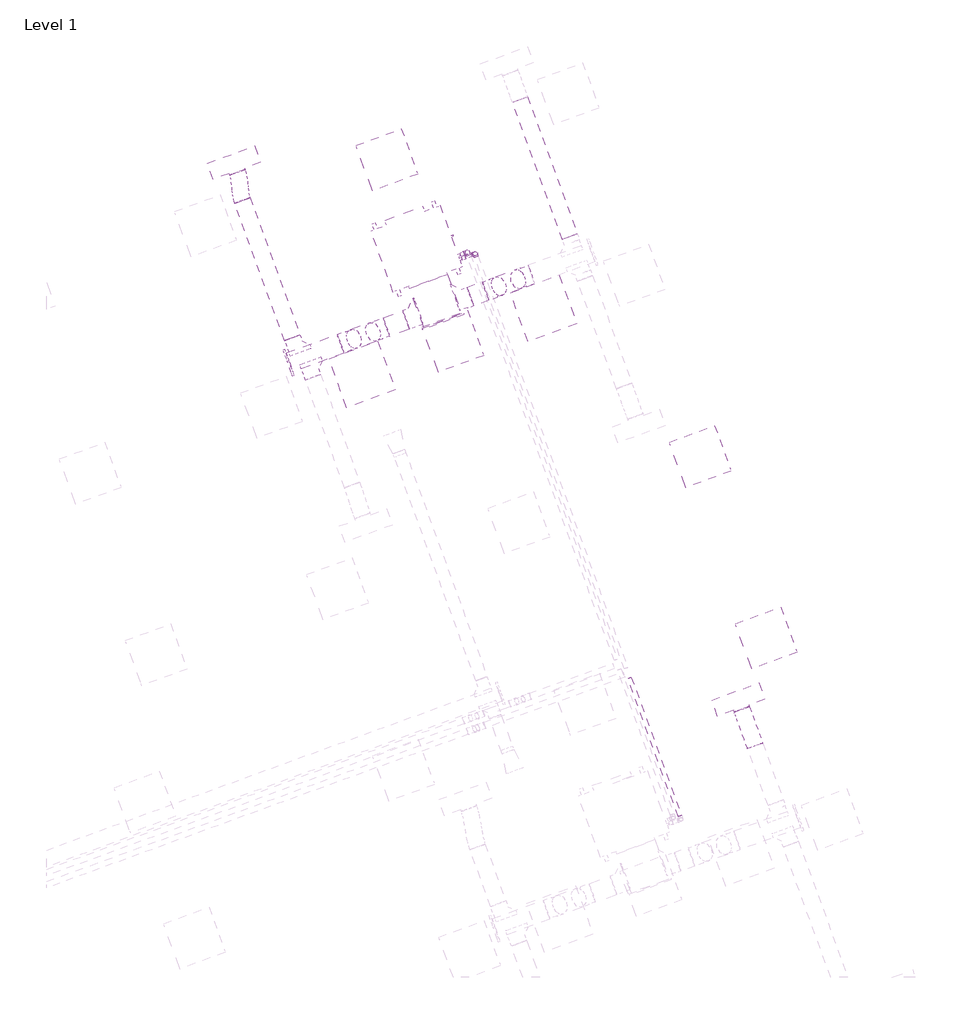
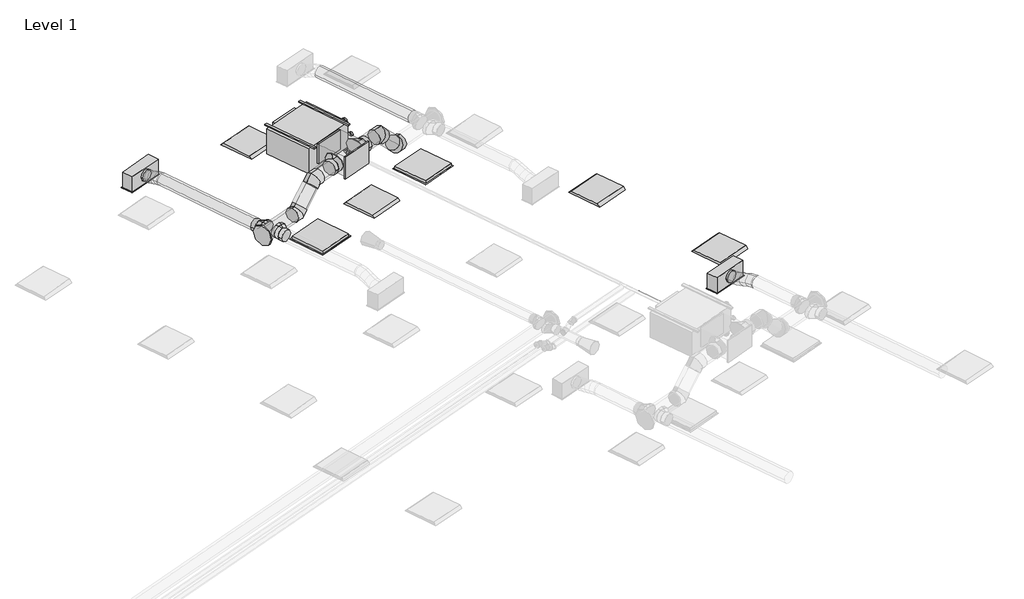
# One storey, part 29 of 30: 10 duct fittings, 10 duct segments, 6 pipe fittings, 4 air terminals, 4 light fixtures, 2 pipe segments, 1 proxy.
"""IFC4 building model written with IfcOpenShell, lengths in millimetres."""

from ifc_helpers import new_model, si_unit, point, frame, frame_2d, origin, place, context, project, spatial, polyline, circle_curve, ellipse_curve, trimmed, segment, composite_curve, outline, extrude, transform, mapped, element, save
from ifc_brep_helpers import plane_surface, cylinder_surface, advanced_brep
from components import return_grille_rectangular_hosted_standard_7b12617c, supply_diffuser_with_plenum_linear_slot_hosted_2b730595, fan_coil_unit_ceiling_ducted_chw_376_lps_945e770d, dw144_rectangular_blank_end_standard_1669e3e3, dw144_round_blank_end_standard_e3d0b58b, dw144_round_segmented_bend_slip_joint_standard_636bd9c1, dw144_round_shoe_branch_slip_joint1_standard_2_559552f4, dw144_round_shoe_branch_slip_joint1_standard_2_4a92c8a1, dw144_round_shoe_branch_slip_joint1_standard_2_671412f0, light_fixture_1c7c1157, elbow_threaded_gmi_standard_b4aa7741, socket_reducing_threaded_gmi_standard_0a4076b8

model = new_model("IFC4")

# Units and contexts
model_context = context("Model", 3, world=origin())
ifc_project = project(units=[si_unit("LENGTHUNIT", "METRE", prefix="MILLI")], contexts=[model_context])

# Site, building, storey
site = spatial("IfcSite", under=ifc_project)
building = spatial("IfcBuilding", under=site)
storey = spatial("IfcBuildingStorey", under=building, Name="Level 1", Elevation=3900.0)

# Air terminals
placement = place(None, origin())
return_grille_rectangular_hosted_standard_shape = return_grille_rectangular_hosted_standard_7b12617c(model_context)
element("IfcAirTerminal", 1, ObjectType="Return Grille - Rectangular - Hosted : Standard", at=placement, inside=storey, context=model_context, shape_type="MappedRepresentation", body=[
    mapped(return_grille_rectangular_hosted_standard_shape, transform((57626.8548517, 20697.8106845, 6700.0), x_axis=(0.939692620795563, 0.34202014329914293, 0.0), y_axis=(0.34202014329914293, -0.939692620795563, 0.0), z_axis=(0.0, 0.0, -1.0))),
])
element("IfcAirTerminal", 2, ObjectType="Return Grille - Rectangular - Hosted : Standard", at=placement, inside=storey, context=model_context, shape_type="MappedRepresentation", body=[
    mapped(return_grille_rectangular_hosted_standard_shape, transform((59882.1171416, 21518.6590285, 6700.0), x_axis=(0.939692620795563, 0.34202014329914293, 0.0), y_axis=(0.34202014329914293, -0.939692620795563, 0.0), z_axis=(0.0, 0.0, -1.0))),
])
supply_diffuser_with_plenum_linear_slot_hosted_shape = supply_diffuser_with_plenum_linear_slot_hosted_2b730595(model_context)
element("IfcAirTerminal", 3, ObjectType="Supply Diffuser with Plenum - Linear Slot - Hosted : 24\" x 8\"-200 In Inlet  4-Slot", at=placement, inside=storey, context=model_context, shape_type="MappedRepresentation", body=[
    mapped(supply_diffuser_with_plenum_linear_slot_hosted_shape, transform((56030.8737895, 23328.4499742, 6700.0), x_axis=(-0.9396926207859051, -0.3420201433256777, 0.0), y_axis=(-0.3420201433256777, 0.9396926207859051, 0.0), z_axis=(0.0, 0.0, -1.0))),
])
element("IfcAirTerminal", 4, ObjectType="Supply Diffuser with Plenum - Linear Slot - Hosted : 24\" x 8\"-200 In Inlet  4-Slot", at=placement, inside=storey, context=model_context, shape_type="MappedRepresentation", body=[
    mapped(supply_diffuser_with_plenum_linear_slot_hosted_shape, transform((62303.835891, 16653.5325978, 6700.0), x_axis=(-0.9396926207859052, -0.3420201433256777, 0.0), y_axis=(-0.3420201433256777, 0.9396926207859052, 0.0), z_axis=(0.0, 0.0, -1.0))),
])

# Proxy
fan_coil_unit_ceiling_ducted_chw_376_lps_shape = fan_coil_unit_ceiling_ducted_chw_376_lps_945e770d(model_context)
element("IfcBuildingElementProxy", 5, Name="Fan Coil Unit - Ceiling Ducted - CHW : 376 LPS", ObjectType="Fan Coil Unit - Ceiling Ducted - CHW : 376 LPS", at=placement, inside=storey, context=model_context, shape_type="MappedRepresentation", body=[
    mapped(fan_coil_unit_ceiling_ducted_chw_376_lps_shape, transform((58013.066855, 21719.3871216, 7115.575), x_axis=(0.9396926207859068, 0.34202014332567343, 0.0), y_axis=(-0.34202014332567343, 0.9396926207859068, 0.0), z_axis=(0.0, 0.0, 1.0))),
])

# Duct fittings
dw144_rectangular_blank_end_standard_shape = dw144_rectangular_blank_end_standard_1669e3e3(model_context)
element("IfcDuctFitting", 6, ObjectType="DW144 Rectangular Blank End : Standard", at=placement, inside=storey, context=model_context, shape_type="MappedRepresentation", body=[
    mapped(dw144_rectangular_blank_end_standard_shape, transform((58629.0952993, 21363.6262528, 7369.575), x_axis=(0.34202014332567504, -0.9396926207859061, 0.0), y_axis=(0.9396926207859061, 0.34202014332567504, 0.0), z_axis=(0.0, 0.0, 1.0))),
])
dw144_round_blank_end_standard_shape = dw144_round_blank_end_standard_e3d0b58b(model_context)
element("IfcDuctFitting", 7, ObjectType="DW144 Round Blank End : Standard", at=placement, inside=storey, context=model_context, shape_type="MappedRepresentation", body=[
    mapped(dw144_round_blank_end_standard_shape, transform((56721.5404125, 20844.6765966, 6972.2088531), x_axis=(-0.9396926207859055, -0.3420201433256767, 0.0), y_axis=(0.3420201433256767, -0.9396926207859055, 0.0), z_axis=(0.0, 0.0, 1.0))),
])
dw144_round_segmented_bend_slip_joint_standard_shape = dw144_round_segmented_bend_slip_joint_standard_636bd9c1(model_context)
element("IfcDuctFitting", 8, ObjectType="DW144 Round Segmented Bend - Slip Joint : Standard", at=placement, inside=storey, context=model_context, shape_type="MappedRepresentation", body=[
    mapped(dw144_round_segmented_bend_slip_joint_standard_shape, transform((59632.1186201, 21904.0404287, 6972.2088531), x_axis=(0.6644630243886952, 0.24184476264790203, -0.7071067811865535), y_axis=(0.6644630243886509, 0.2418447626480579, 0.7071067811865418), z_axis=(0.3420201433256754, -0.939692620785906, 0.0))),
])
element("IfcDuctFitting", 9, ObjectType="DW144 Round Segmented Bend - Slip Joint : Standard", at=placement, inside=storey, context=model_context, shape_type="MappedRepresentation", body=[
    mapped(dw144_round_segmented_bend_slip_joint_standard_shape, transform((59258.7165841, 21768.1332022, 7369.575), x_axis=(0.9396926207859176, 0.3420201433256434, 0.0), y_axis=(0.0, 0.0, -1.0), z_axis=(-0.3420201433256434, 0.9396926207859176, 0.0))),
])
element("IfcDuctFitting", 10, ObjectType="DW144 Round Segmented Bend - Slip Joint : Standard", at=placement, inside=storey, context=model_context, shape_type="MappedRepresentation", body=[
    mapped(dw144_round_segmented_bend_slip_joint_standard_shape, transform((57456.9817646, 21112.3553578, 6972.2088531), x_axis=(-0.6644630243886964, -0.24184476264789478, -0.7071067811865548), y_axis=(-0.6644630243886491, -0.24184476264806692, 0.7071067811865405), z_axis=(-0.34202014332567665, 0.9396926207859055, 0.0))),
])
element("IfcDuctFitting", 11, ObjectType="DW144 Round Segmented Bend - Slip Joint : Standard", at=placement, inside=storey, context=model_context, shape_type="MappedRepresentation", body=[
    mapped(dw144_round_segmented_bend_slip_joint_standard_shape, transform((57830.3838005, 21248.2625843, 7369.575), x_axis=(-0.9396926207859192, -0.3420201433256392, 0.0), y_axis=(0.0, 0.0, -1.0000000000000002), z_axis=(0.3420201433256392, -0.9396926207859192, 0.0))),
])
dw144_round_shoe_branch_slip_joint1_standard_2_shape = dw144_round_shoe_branch_slip_joint1_standard_2_559552f4(model_context)
element("IfcDuctFitting", 12, ObjectType="DW144 Round Shoe Branch - Slip Joint1 : Standard 2", at=placement, inside=storey, context=model_context, shape_type="MappedRepresentation", body=[
    mapped(dw144_round_shoe_branch_slip_joint1_standard_2_shape, transform((56809.6255441, 21009.7591842, 6972.2088531), x_axis=(-0.3420201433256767, 0.9396926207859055, 0.0), y_axis=(0.9396926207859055, 0.3420201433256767, 0.0), z_axis=(0.0, 0.0, -1.0))),
])
element("IfcDuctFitting", 13, ObjectType="DW144 Round Shoe Branch - Slip Joint1 : Standard 2", at=placement, inside=storey, context=model_context, shape_type="MappedRepresentation", body=[
    mapped(dw144_round_shoe_branch_slip_joint1_standard_2_shape, transform((56963.6827341, 20799.7869726, 6972.2088531), x_axis=(0.3420201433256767, -0.9396926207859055, 0.0), y_axis=(0.9396926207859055, 0.3420201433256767, 0.0), z_axis=(0.0, 0.0, 1.0))),
])
dw144_round_shoe_branch_slip_joint1_standard_2_2_shape = dw144_round_shoe_branch_slip_joint1_standard_2_4a92c8a1(model_context)
element("IfcDuctFitting", 14, ObjectType="DW144 Round Shoe Branch - Slip Joint1 : Standard 2", at=placement, inside=storey, context=model_context, shape_type="MappedRepresentation", body=[
    mapped(dw144_round_shoe_branch_slip_joint1_standard_2_2_shape, transform((58807.6641261, 21603.9635334, 7369.575), x_axis=(0.9396926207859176, 0.3420201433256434, 0.0), y_axis=(0.3420201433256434, -0.9396926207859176, 0.0), z_axis=(0.0, 0.0, -1.0))),
])
dw144_round_shoe_branch_slip_joint1_standard_2_3_shape = dw144_round_shoe_branch_slip_joint1_standard_2_671412f0(model_context)
element("IfcDuctFitting", 15, ObjectType="DW144 Round Shoe Branch - Slip Joint1 : Standard 2", at=placement, inside=storey, context=model_context, shape_type="MappedRepresentation", body=[
    mapped(dw144_round_shoe_branch_slip_joint1_standard_2_3_shape, transform((58337.8178157, 21432.9534617, 7369.575), x_axis=(-0.9396926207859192, -0.3420201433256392, 0.0), y_axis=(-0.3420201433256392, 0.9396926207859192, 0.0), z_axis=(0.0, 0.0, -1.0))),
])

# Duct segments
element("IfcDuctSegment", 16, ObjectType="DW144 Flanged Med Radius Bend / Shoe Branch", at=placement, inside=storey, context=model_context, shape_type="SweptSolid", body=[
    extrude(outline(polyline([(58216.4584777, 21766.3855027), (58686.3047881, 21937.3955743), (58864.0184545, 21449.1312886), (58394.1721442, 21278.1212169), (58216.4584777, 21766.3855027)])), frame((0.0, 0.0, 7194.575), z_axis=(0.0, 0.0, 1.0), x_axis=(1.0, 0.0, 0.0)), (0.0, 0.0, 1.0), 350.0),
])
element("IfcDuctSegment", 17, ObjectType="DW144 Segmented Bend / Shoe Branch", at=placement, inside=storey, context=model_context, shape_type="SweptSolid", body=[
    extrude(outline(composite_curve([segment(trimmed(circle_curve(frame_2d((0.0, 125.0)), 125.0), [point((125.0, 125.0))], [point((0.0, 0.0))], False, "CARTESIAN"), True, "CONTINUOUS"), segment(trimmed(circle_curve(frame_2d((0.0, 125.0)), 125.0), [point((0.0, 0.0))], [point((-125.0, 125.0))], False, "CARTESIAN"), True, "CONTINUOUS"), segment(trimmed(circle_curve(frame_2d((0.0, 125.0)), 125.0), [point((-125.0, 125.0))], [point((0.0, 250.0))], False, "CARTESIAN"), True, "CONTINUOUS"), segment(trimmed(circle_curve(frame_2d((0.0, 125.0)), 125.0), [point((0.0, 250.0))], [point((125.0, 125.0))], False, "CARTESIAN"), True, "CONTINUOUS")], self_intersect=False)), frame((56721.5404125, 20844.6765966, 7097.2088531), z_axis=(0.9396926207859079, 0.3420201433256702, 0.0), x_axis=(0.3420201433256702, -0.9396926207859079, 0.0)), (0.0, 0.0, 1.0), 679.0869492),
])
element("IfcDuctSegment", 18, ObjectType="DW144 Segmented Bend / Shoe Branch", at=placement, inside=storey, context=model_context, shape_type="SweptSolid", body=[
    extrude(outline(composite_curve([segment(trimmed(circle_curve(frame_2d((0.0, 100.0)), 100.0), [point((100.0, 100.0))], [point((0.0, 0.0))], False, "CARTESIAN"), True, "CONTINUOUS"), segment(trimmed(circle_curve(frame_2d((0.0, 100.0)), 100.0), [point((0.0, 0.0))], [point((-100.0, 100.0))], False, "CARTESIAN"), True, "CONTINUOUS"), segment(trimmed(circle_curve(frame_2d((0.0, 100.0)), 100.0), [point((-100.0, 100.0))], [point((0.0, 200.0))], False, "CARTESIAN"), True, "CONTINUOUS"), segment(trimmed(circle_curve(frame_2d((0.0, 100.0)), 100.0), [point((0.0, 200.0))], [point((100.0, 100.0))], False, "CARTESIAN"), True, "CONTINUOUS")], self_intersect=False)), frame((60209.7681116, 22406.9365369, 7072.2088531), z_axis=(-0.3420201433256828, 0.9396926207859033, 0.0), x_axis=(0.9396926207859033, 0.3420201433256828, 0.0)), (0.0, 0.0, 1.0), 1816.9035933),
])
element("IfcDuctSegment", 19, ObjectType="DW144 Segmented Bend / Shoe Branch", at=placement, inside=storey, context=model_context, shape_type="SweptSolid", body=[
    extrude(outline(composite_curve([segment(trimmed(circle_curve(frame_2d((0.0, -100.0)), 100.0), [point((-99.9999999, -100.0))], [point((0.0, 0.0))], False, "CARTESIAN"), True, "CONTINUOUS"), segment(trimmed(circle_curve(frame_2d((0.0, -100.0)), 100.0), [point((0.0, 0.0))], [point((100.0, -100.0))], False, "CARTESIAN"), True, "CONTINUOUS"), segment(trimmed(circle_curve(frame_2d((0.0, -100.0)), 100.0), [point((100.0, -100.0))], [point((0.0, -200.0))], False, "CARTESIAN"), True, "CONTINUOUS"), segment(trimmed(circle_curve(frame_2d((0.0, -100.0)), 100.0), [point((0.0, -200.0))], [point((-99.9999999, -100.0))], False, "CARTESIAN"), True, "CONTINUOUS")], self_intersect=False)), frame((56758.3225226, 21150.7130773, 6872.2088531), z_axis=(-0.3420201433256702, 0.9396926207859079, 0.0), x_axis=(0.9396926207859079, 0.3420201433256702, 0.0)), (0.0, 0.0, 1.0), 1816.9035933),
])
element("IfcDuctSegment", 20, ObjectType="DW144 Segmented Bend / Shoe Branch", at=placement, inside=storey, context=model_context, shape_type="SweptSolid", body=[
    extrude(outline(composite_curve([segment(trimmed(circle_curve(frame_2d((0.0, 125.0)), 125.0), [point((125.0, 125.0))], [point((0.0, 0.0))], False, "CARTESIAN"), True, "CONTINUOUS"), segment(trimmed(circle_curve(frame_2d((0.0, 125.0)), 125.0), [point((0.0, 0.0))], [point((-124.9999999, 125.0))], False, "CARTESIAN"), True, "CONTINUOUS"), segment(trimmed(circle_curve(frame_2d((0.0, 125.0)), 125.0), [point((-124.9999999, 125.0))], [point((0.0, 250.0))], False, "CARTESIAN"), True, "CONTINUOUS"), segment(trimmed(circle_curve(frame_2d((0.0, 125.0)), 125.0), [point((0.0, 250.0))], [point((125.0, 125.0))], False, "CARTESIAN"), True, "CONTINUOUS")], self_intersect=False)), frame((58972.1103348, 21663.8170585, 7494.575), z_axis=(0.9396926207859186, 0.3420201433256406, 0.0), x_axis=(0.3420201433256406, -0.9396926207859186, 0.0)), (0.0, 0.0, 1.0), 201.4466094),
])
element("IfcDuctSegment", 21, ObjectType="DW144 Segmented Bend / Shoe Branch", at=placement, inside=storey, context=model_context, shape_type="SweptSolid", body=[
    extrude(outline(composite_curve([segment(trimmed(circle_curve(frame_2d((0.0, -125.0)), 125.0), [point((-125.0, -125.0))], [point((0.0, 0.0))], False, "CARTESIAN"), True, "CONTINUOUS"), segment(trimmed(circle_curve(frame_2d((0.0, -125.0)), 125.0), [point((0.0, 0.0))], [point((125.0, -125.0))], False, "CARTESIAN"), True, "CONTINUOUS"), segment(trimmed(circle_curve(frame_2d((0.0, -125.0)), 125.0), [point((125.0, -125.0))], [point((0.0, -250.0))], False, "CARTESIAN"), True, "CONTINUOUS"), segment(trimmed(circle_curve(frame_2d((0.0, -125.0)), 125.0), [point((0.0, -250.0))], [point((-125.0, -125.0))], False, "CARTESIAN"), True, "CONTINUOUS")], self_intersect=False)), frame((57927.6921575, 21283.6799298, 7244.575), z_axis=(0.9396926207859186, 0.3420201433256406, 0.0), x_axis=(0.3420201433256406, -0.9396926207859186, 0.0)), (0.0, 0.0, 1.0), 261.4466094),
])
element("IfcDuctSegment", 22, ObjectType="DW144 Segmented Bend / Shoe Branch", at=placement, inside=storey, context=model_context, shape_type="SweptSolid", body=[
    extrude(outline(composite_curve([segment(trimmed(circle_curve(frame_2d((0.0, -125.0)), 125.0), [point((57.2076922, -236.1408113))], [point((-111.1408114, -182.2076922))], False, "CARTESIAN"), True, "CONTINUOUS"), segment(trimmed(circle_curve(frame_2d((0.0, -125.0)), 125.0), [point((-111.1408114, -182.2076922))], [point((-57.2076923, -13.8591886))], False, "CARTESIAN"), True, "CONTINUOUS"), segment(trimmed(circle_curve(frame_2d((0.0, -125.0)), 125.0), [point((-57.2076923, -13.8591886))], [point((111.1408113, -67.7923077))], False, "CARTESIAN"), True, "CONTINUOUS"), segment(trimmed(circle_curve(frame_2d((0.0, -125.0)), 125.0), [point((111.1408113, -67.7923077))], [point((57.2076922, -236.1408113))], False, "CARTESIAN"), True, "CONTINUOUS")], self_intersect=False)), frame((59563.311221, 21997.2701645, 7085.884105), z_axis=(-0.6644630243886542, -0.2418447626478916, 0.7071067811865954), x_axis=(0.7473211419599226, -0.21503058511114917, 0.6287073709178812)), (0.0, 0.0, 1.0), 354.8538129),
])
element("IfcDuctSegment", 23, ObjectType="DW144 Segmented Bend / Shoe Branch", at=placement, inside=storey, context=model_context, shape_type="SweptSolid", body=[
    extrude(outline(composite_curve([segment(trimmed(circle_curve(frame_2d((0.0, -124.9999999)), 125.0), [point((-57.2076923, -13.8591886))], [point((111.1408113, -67.7923077))], False, "CARTESIAN"), True, "CONTINUOUS"), segment(trimmed(circle_curve(frame_2d((0.0, -124.9999999)), 125.0), [point((111.1408113, -67.7923077))], [point((57.2076923, -236.1408113))], False, "CARTESIAN"), True, "CONTINUOUS"), segment(trimmed(circle_curve(frame_2d((0.0, -124.9999999)), 125.0), [point((57.2076923, -236.1408113))], [point((-111.1408114, -182.2076923))], False, "CARTESIAN"), True, "CONTINUOUS"), segment(trimmed(circle_curve(frame_2d((0.0, -124.9999999)), 125.0), [point((-111.1408114, -182.2076923))], [point((-57.2076923, -13.8591886))], False, "CARTESIAN"), True, "CONTINUOUS")], self_intersect=False)), frame((57525.7891637, 21255.672784, 7004.9802107), z_axis=(0.6644630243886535, 0.24184476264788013, 0.7071067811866), x_axis=(0.7473211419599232, -0.21503058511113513, -0.6287073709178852)), (0.0, 0.0, 1.0), 354.8538129),
])
element("IfcDuctSegment", 24, ObjectType="Flex - Round", at=placement, inside=storey, context=model_context, shape_type="AdvancedBrep", body=[
    advanced_brep(
    [(56042.9356332, 22823.8419622, 6972.2088531), (56136.9048953, 22858.0439766, 6872.2088531), (56230.8741573, 22892.2459909, 6972.2088531), (56136.9048953, 22858.0439766, 7072.2088531), (56035.3481266, 22844.6884654, 6972.2088531), (56134.9195238, 22863.4987397, 6872.2088531), (56227.1193232, 22902.5623129, 6972.2088531), (56127.5479259, 22883.7520385, 7072.2088531), (55980.3410856, 23174.9069971, 6854.4), (56074.3103477, 23209.1090114, 6954.4), (56168.2796098, 23243.3110257, 6854.4), (56074.3103477, 23209.1090114, 6754.4), (56019.8266035, 22909.2846872, 6957.7687719), (56126.2732121, 22899.4822619, 6864.1649619), (56216.3014412, 22947.5833009, 6962.1446929), (56109.8548326, 22957.3857262, 7055.7485029), (56009.669189, 22985.4002162, 6926.0560812), (56118.4529826, 22958.0838786, 6839.7492485), (56207.743, 23011.7167753, 6935.4241924), (56098.9592065, 23039.033113, 7021.7310251), (56003.4722429, 23055.4362127, 6891.1846607), (56112.2560365, 23028.119875, 6804.877828), (56201.5460539, 23081.7527717, 6900.5527719), (56092.7622604, 23109.0691094, 6986.8596046), (55994.9138018, 23119.5696871, 6864.4641602), (56101.3604104, 23109.7672618, 6770.8603502), (56191.3886395, 23157.8683008, 6868.8400813), (56084.9420309, 23167.670726, 6962.4438913), (55984.0959198, 23164.5906751, 6854.4), (56083.6673171, 23183.4009494, 6754.4), (56175.8671164, 23222.4645226, 6854.4), (56076.2957192, 23203.6542482, 6954.4)],
    [
        (0, 1, circle_curve(frame((56136.9048953, 22858.0439766, 6972.2088531), z_axis=(0.3420201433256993, -0.9396926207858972, 0.0), x_axis=(-0.9396926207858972, -0.3420201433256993, 0.0)), 100.0)),
        (1, 2, circle_curve(frame((56136.9048953, 22858.0439766, 6972.2088531), z_axis=(0.3420201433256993, -0.9396926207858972, 0.0), x_axis=(-0.9396926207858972, -0.3420201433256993, 0.0)), 100.0)),
        (2, 3, circle_curve(frame((56136.9048953, 22858.0439766, 6972.2088531), z_axis=(0.3420201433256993, -0.9396926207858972, 0.0), x_axis=(-0.9396926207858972, -0.3420201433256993, 0.0)), 100.0)),
        (3, 0, circle_curve(frame((56136.9048953, 22858.0439766, 6972.2088531), z_axis=(0.3420201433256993, -0.9396926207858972, 0.0), x_axis=(-0.9396926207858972, -0.3420201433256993, 0.0)), 100.0)),
        (0, 4),
        (4, 5, ellipse_curve(frame((56131.2337249, 22873.6253891, 6972.2088531), z_axis=(0.2872580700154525, -0.9518604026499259, 0.10697932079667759), x_axis=(0.47155649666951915, 0.04331948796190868, -0.8807711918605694)), 100.7349377, 100.0)),
        (5, 1),
        (5, 6, ellipse_curve(frame((56131.2337249, 22873.6253891, 6972.2088531), z_axis=(0.2872580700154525, -0.9518604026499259, 0.10697932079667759), x_axis=(0.47155649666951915, 0.04331948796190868, -0.8807711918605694)), 100.7349377, 100.0)),
        (6, 2),
        (6, 7, ellipse_curve(frame((56131.2337249, 22873.6253891, 6972.2088531), z_axis=(0.2872580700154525, -0.9518604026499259, 0.10697932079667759), x_axis=(0.47155649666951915, 0.04331948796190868, -0.8807711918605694)), 100.7349377, 100.0)),
        (7, 3),
        (7, 4, ellipse_curve(frame((56131.2337249, 22873.6253891, 6972.2088531), z_axis=(0.2872580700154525, -0.9518604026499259, 0.10697932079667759), x_axis=(0.47155649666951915, 0.04331948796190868, -0.8807711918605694)), 100.7349377, 100.0)),
        (8, 9, circle_curve(frame((56074.3103477, 23209.1090114, 6854.4), z_axis=(-0.3420201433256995, 0.9396926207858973, 0.0), x_axis=(-0.9396926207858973, -0.3420201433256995, 0.0)), 100.0)),
        (9, 10, circle_curve(frame((56074.3103477, 23209.1090114, 6854.4), z_axis=(-0.3420201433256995, 0.9396926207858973, 0.0), x_axis=(-0.9396926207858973, -0.3420201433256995, 0.0)), 100.0)),
        (10, 11, circle_curve(frame((56074.3103477, 23209.1090114, 6854.4), z_axis=(-0.3420201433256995, 0.9396926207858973, 0.0), x_axis=(-0.9396926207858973, -0.3420201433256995, 0.0)), 100.0)),
        (11, 8, circle_curve(frame((56074.3103477, 23209.1090114, 6854.4), z_axis=(-0.3420201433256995, 0.9396926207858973, 0.0), x_axis=(-0.9396926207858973, -0.3420201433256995, 0.0)), 100.0)),
        (4, 12),
        (12, 13, ellipse_curve(frame((56118.0640224, 22928.433994, 6959.9567324), z_axis=(0.1761886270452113, -0.937977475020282, 0.2985897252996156), x_axis=(0.5232975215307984, -0.16766949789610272, -0.8354918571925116)), 100.5173143, 100.0)),
        (13, 5),
        (13, 14, ellipse_curve(frame((56118.0640224, 22928.433994, 6959.9567324), z_axis=(0.1761886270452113, -0.937977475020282, 0.2985897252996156), x_axis=(0.5232975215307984, -0.16766949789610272, -0.8354918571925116)), 100.5173143, 100.0)),
        (14, 6),
        (14, 15, ellipse_curve(frame((56118.0640224, 22928.433994, 6959.9567324), z_axis=(0.1761886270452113, -0.937977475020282, 0.2985897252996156), x_axis=(0.5232975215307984, -0.16766949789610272, -0.8354918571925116)), 100.5173143, 100.0)),
        (15, 7),
        (15, 12, ellipse_curve(frame((56118.0640224, 22928.433994, 6959.9567324), z_axis=(0.1761886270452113, -0.937977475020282, 0.2985897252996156), x_axis=(0.5232975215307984, -0.16766949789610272, -0.8354918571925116)), 100.5173143, 100.0)),
        (12, 16),
        (16, 17, ellipse_curve(frame((56108.7060945, 22998.5584958, 6930.7401368), z_axis=(0.10068966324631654, -0.9049906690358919, 0.41334426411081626), x_axis=(0.5429036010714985, -0.2981722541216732, -0.7850789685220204)), 100.0796062, 100.0)),
        (17, 13),
        (17, 18, ellipse_curve(frame((56108.7060945, 22998.5584958, 6930.7401368), z_axis=(0.10068966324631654, -0.9049906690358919, 0.41334426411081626), x_axis=(0.5429036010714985, -0.2981722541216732, -0.7850789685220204)), 100.0796062, 100.0)),
        (18, 14),
        (18, 19, ellipse_curve(frame((56108.7060945, 22998.5584958, 6930.7401368), z_axis=(0.10068966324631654, -0.9049906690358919, 0.41334426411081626), x_axis=(0.5429036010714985, -0.2981722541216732, -0.7850789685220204)), 100.0796062, 100.0)),
        (19, 15),
        (19, 16, ellipse_curve(frame((56108.7060945, 22998.5584958, 6930.7401368), z_axis=(0.10068966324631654, -0.9049906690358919, 0.41334426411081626), x_axis=(0.5429036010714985, -0.2981722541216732, -0.7850789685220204)), 100.0796062, 100.0)),
        (16, 20),
        (20, 21, ellipse_curve(frame((56102.5091484, 23068.5944922, 6895.8687163), z_axis=(0.10068966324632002, -0.9049906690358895, 0.4133442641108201), x_axis=(-0.5429036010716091, 0.29817225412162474, 0.7850789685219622)), 100.0796062, 100.0)),
        (21, 17),
        (21, 22, ellipse_curve(frame((56102.5091484, 23068.5944922, 6895.8687163), z_axis=(0.10068966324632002, -0.9049906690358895, 0.4133442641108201), x_axis=(-0.5429036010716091, 0.29817225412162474, 0.7850789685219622)), 100.0796062, 100.0)),
        (22, 18),
        (22, 23, ellipse_curve(frame((56102.5091484, 23068.5944922, 6895.8687163), z_axis=(0.10068966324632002, -0.9049906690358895, 0.4133442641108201), x_axis=(-0.5429036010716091, 0.29817225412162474, 0.7850789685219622)), 100.0796062, 100.0)),
        (23, 19),
        (23, 20, ellipse_curve(frame((56102.5091484, 23068.5944922, 6895.8687163), z_axis=(0.10068966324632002, -0.9049906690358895, 0.4133442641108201), x_axis=(-0.5429036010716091, 0.29817225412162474, 0.7850789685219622)), 100.0796062, 100.0)),
        (20, 24),
        (24, 25, ellipse_curve(frame((56093.1512206, 23138.7189939, 6866.6521207), z_axis=(0.17618862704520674, -0.937977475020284, 0.29858972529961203), x_axis=(-0.5232975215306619, 0.1676694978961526, 0.8354918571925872)), 100.5173143, 100.0)),
        (25, 21),
        (25, 26, ellipse_curve(frame((56093.1512206, 23138.7189939, 6866.6521207), z_axis=(0.17618862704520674, -0.937977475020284, 0.29858972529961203), x_axis=(-0.5232975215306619, 0.1676694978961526, 0.8354918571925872)), 100.5173143, 100.0)),
        (26, 22),
        (26, 27, ellipse_curve(frame((56093.1512206, 23138.7189939, 6866.6521207), z_axis=(0.17618862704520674, -0.937977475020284, 0.29858972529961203), x_axis=(-0.5232975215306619, 0.1676694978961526, 0.8354918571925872)), 100.5173143, 100.0)),
        (27, 23),
        (27, 24, ellipse_curve(frame((56093.1512206, 23138.7189939, 6866.6521207), z_axis=(0.17618862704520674, -0.937977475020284, 0.29858972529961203), x_axis=(-0.5232975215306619, 0.1676694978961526, 0.8354918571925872)), 100.5173143, 100.0)),
        (24, 28),
        (28, 29, ellipse_curve(frame((56079.9815181, 23193.5275988, 6854.4), z_axis=(0.2872580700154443, -0.9518604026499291, 0.10697932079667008), x_axis=(-0.4715564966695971, -0.04331948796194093, 0.8807711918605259)), 100.7349377, 100.0)),
        (29, 25),
        (29, 30, ellipse_curve(frame((56079.9815181, 23193.5275988, 6854.4), z_axis=(0.2872580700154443, -0.9518604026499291, 0.10697932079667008), x_axis=(-0.4715564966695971, -0.04331948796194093, 0.8807711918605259)), 100.7349377, 100.0)),
        (30, 26),
        (30, 31, ellipse_curve(frame((56079.9815181, 23193.5275988, 6854.4), z_axis=(0.2872580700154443, -0.9518604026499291, 0.10697932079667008), x_axis=(-0.4715564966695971, -0.04331948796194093, 0.8807711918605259)), 100.7349377, 100.0)),
        (31, 27),
        (31, 28, ellipse_curve(frame((56079.9815181, 23193.5275988, 6854.4), z_axis=(0.2872580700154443, -0.9518604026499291, 0.10697932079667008), x_axis=(-0.4715564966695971, -0.04331948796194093, 0.8807711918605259)), 100.7349377, 100.0)),
        (28, 8),
        (11, 29),
        (10, 30),
        (9, 31),
    ],
    [
        plane_surface(frame((56136.9048953, 22858.0439766, 7072.2088531), z_axis=(0.34202014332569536, -0.9396926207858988, 0.0), x_axis=(0.9396926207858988, 0.34202014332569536, 0.0))),
        cylinder_surface(frame((56136.9048953, 22858.0439766, 6972.2088531), z_axis=(0.3420201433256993, -0.9396926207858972, 0.0), x_axis=(-0.9396926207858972, -0.3420201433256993, 0.0)), 100.0),
        plane_surface(frame((56074.3103477, 23209.1090114, 6954.4), z_axis=(-0.34202014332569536, 0.9396926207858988, 0.0), x_axis=(0.9396926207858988, 0.34202014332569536, 0.0))),
        cylinder_surface(frame((56131.2337249, 22873.6253891, 6972.2088531), z_axis=(0.2283044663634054, -0.9501390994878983, 0.21239765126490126), x_axis=(-0.9716478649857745, -0.236133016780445, -0.01190062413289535)), 100.0),
        cylinder_surface(frame((56118.0640224, 22928.433994, 6959.9567324), z_axis=(0.12225927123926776, -0.9161612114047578, 0.38170840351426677), x_axis=(-0.9881182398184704, -0.14844948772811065, -0.039813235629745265)), 100.0),
        cylinder_surface(frame((56108.7060945, 22998.5584958, 6930.7401368), z_axis=(0.07895987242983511, -0.8923804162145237, 0.4443225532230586), x_axis=(-0.9918227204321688, -0.11515391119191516, -0.055020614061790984)), 100.0),
        cylinder_surface(frame((56102.5091484, 23068.5944922, 6895.8687163), z_axis=(0.12225927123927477, -0.9161612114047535, 0.3817084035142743), x_axis=(-0.9881182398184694, -0.14844948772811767, -0.039813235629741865)), 100.0),
        cylinder_surface(frame((56093.1512206, 23138.7189939, 6866.6521207), z_axis=(0.22830446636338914, -0.9501390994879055, 0.21239765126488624), x_axis=(-0.9716478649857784, -0.23613301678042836, -0.011900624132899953)), 100.0),
        cylinder_surface(frame((56079.9815181, 23193.5275988, 6854.4), z_axis=(0.3420201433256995, -0.9396926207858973, 0.0), x_axis=(-0.9396926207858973, -0.3420201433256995, 0.0)), 100.0),
    ],
    [
        (0, [[1, 2, 3, 4]]),
        (1, [[-1, 5, 6, 7]]),
        (1, [[-2, -7, 8, 9]]),
        (1, [[-3, -9, 10, 11]]),
        (1, [[-4, -11, 12, -5]]),
        (2, [[13, 14, 15, 16]]),
        (3, [[-6, 17, 18, 19]]),
        (3, [[-8, -19, 20, 21]]),
        (3, [[-10, -21, 22, 23]]),
        (3, [[-12, -23, 24, -17]]),
        (4, [[-18, 25, 26, 27]]),
        (4, [[-20, -27, 28, 29]]),
        (4, [[-22, -29, 30, 31]]),
        (4, [[-24, -31, 32, -25]]),
        (5, [[-26, 33, 34, 35]]),
        (5, [[-28, -35, 36, 37]]),
        (5, [[-30, -37, 38, 39]]),
        (5, [[-32, -39, 40, -33]]),
        (6, [[-34, 41, 42, 43]]),
        (6, [[-36, -43, 44, 45]]),
        (6, [[-38, -45, 46, 47]]),
        (6, [[-40, -47, 48, -41]]),
        (7, [[-42, 49, 50, 51]]),
        (7, [[-44, -51, 52, 53]]),
        (7, [[-46, -53, 54, 55]]),
        (7, [[-48, -55, 56, -49]]),
        (8, [[-50, 57, -16, 58]]),
        (8, [[-52, -58, -15, 59]]),
        (8, [[-54, -59, -14, 60]]),
        (8, [[-56, -60, -13, -57]]),
    ],
),
])
element("IfcDuctSegment", 25, ObjectType="Flex - Round", at=placement, inside=storey, context=model_context, shape_type="AdvancedBrep", body=[
    advanced_brep(
    [(62419.4860197, 16043.4060404, 6972.2088531), (62513.4552818, 16077.6080547, 6872.2088531), (62607.4245439, 16111.8100691, 6972.2088531), (62513.4552818, 16077.6080547, 7072.2088531), (62414.4154594, 16057.3372903, 6972.2088531), (62511.2794667, 16083.5860577, 6872.2088531), (62602.3539836, 16125.741319, 6972.2088531), (62505.4899764, 16099.4925516, 7072.2088531), (62253.3031871, 16499.9896206, 6854.4), (62347.2724492, 16534.191635, 6954.4), (62441.2417112, 16568.3936493, 6854.4), (62347.2724492, 16534.191635, 6754.4), (62377.4889051, 16158.7921647, 6953.8012198), (62479.8453391, 16169.9506134, 6856.5391568), (62565.4274292, 16227.1961934, 6953.8012198), (62463.0709952, 16216.0377446, 7051.0632828), (62336.3946034, 16271.6978305, 6913.3044266), (62441.2877634, 16275.8866821, 6818.5422056), (62524.3331276, 16340.1018592, 6913.3044266), (62419.4399676, 16335.9130075, 7008.0666475), (62295.3003018, 16384.6034963, 6872.8076333), (62397.6567358, 16395.761945, 6775.5455703), (62483.2388259, 16453.007525, 6872.8076333), (62380.8823919, 16441.8490763, 6970.0696963), (62258.3737474, 16486.0583707, 6854.4), (62355.2377546, 16512.3071381, 6754.4), (62446.3122715, 16554.4623993, 6854.4), (62349.4482643, 16528.2136319, 6954.4)],
    [
        (0, 1, circle_curve(frame((62513.4552818, 16077.6080547, 6972.2088531), z_axis=(0.3420201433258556, -0.9396926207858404, 0.0), x_axis=(-0.9396926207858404, -0.3420201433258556, 0.0)), 100.0)),
        (1, 2, circle_curve(frame((62513.4552818, 16077.6080547, 6972.2088531), z_axis=(0.3420201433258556, -0.9396926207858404, 0.0), x_axis=(-0.9396926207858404, -0.3420201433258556, 0.0)), 100.0)),
        (2, 3, circle_curve(frame((62513.4552818, 16077.6080547, 6972.2088531), z_axis=(0.3420201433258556, -0.9396926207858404, 0.0), x_axis=(-0.9396926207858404, -0.3420201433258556, 0.0)), 100.0)),
        (3, 0, circle_curve(frame((62513.4552818, 16077.6080547, 6972.2088531), z_axis=(0.3420201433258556, -0.9396926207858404, 0.0), x_axis=(-0.9396926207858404, -0.3420201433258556, 0.0)), 100.0)),
        (0, 4),
        (4, 5, ellipse_curve(frame((62508.3847215, 16091.5393047, 6972.2088531), z_axis=(0.3408016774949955, -0.9363449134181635, 0.08433516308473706), x_axis=(0.028844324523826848, -0.07924913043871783, -0.9964374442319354)), 100.3575293, 100.0)),
        (5, 1),
        (5, 6, ellipse_curve(frame((62508.3847215, 16091.5393047, 6972.2088531), z_axis=(0.3408016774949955, -0.9363449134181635, 0.08433516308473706), x_axis=(0.028844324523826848, -0.07924913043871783, -0.9964374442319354)), 100.3575293, 100.0)),
        (6, 2),
        (6, 7, ellipse_curve(frame((62508.3847215, 16091.5393047, 6972.2088531), z_axis=(0.3408016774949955, -0.9363449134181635, 0.08433516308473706), x_axis=(0.028844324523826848, -0.07924913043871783, -0.9964374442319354)), 100.3575293, 100.0)),
        (7, 3),
        (7, 4, ellipse_curve(frame((62508.3847215, 16091.5393047, 6972.2088531), z_axis=(0.3408016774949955, -0.9363449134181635, 0.08433516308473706), x_axis=(0.028844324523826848, -0.07924913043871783, -0.9964374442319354)), 100.3575293, 100.0)),
        (8, 9, circle_curve(frame((62347.2724492, 16534.191635, 6854.4), z_axis=(-0.3420201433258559, 0.9396926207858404, 0.0), x_axis=(-0.9396926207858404, -0.3420201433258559, 0.0)), 100.0)),
        (9, 10, circle_curve(frame((62347.2724492, 16534.191635, 6854.4), z_axis=(-0.3420201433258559, 0.9396926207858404, 0.0), x_axis=(-0.9396926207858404, -0.3420201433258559, 0.0)), 100.0)),
        (10, 11, circle_curve(frame((62347.2724492, 16534.191635, 6854.4), z_axis=(-0.3420201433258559, 0.9396926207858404, 0.0), x_axis=(-0.9396926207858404, -0.3420201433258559, 0.0)), 100.0)),
        (11, 8, circle_curve(frame((62347.2724492, 16534.191635, 6854.4), z_axis=(-0.3420201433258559, 0.9396926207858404, 0.0), x_axis=(-0.9396926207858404, -0.3420201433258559, 0.0)), 100.0)),
        (4, 12),
        (12, 13, ellipse_curve(frame((62471.4581671, 16192.994179, 6953.8012198), z_axis=(0.33164158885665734, -0.9111777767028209, 0.24447682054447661), x_axis=(0.08361599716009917, -0.22973306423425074, -0.9696551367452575)), 100.3058297, 100.0)),
        (13, 5),
        (13, 14, ellipse_curve(frame((62471.4581671, 16192.994179, 6953.8012198), z_axis=(0.33164158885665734, -0.9111777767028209, 0.24447682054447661), x_axis=(0.08361599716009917, -0.22973306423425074, -0.9696551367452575)), 100.3058297, 100.0)),
        (14, 6),
        (14, 15, ellipse_curve(frame((62471.4581671, 16192.994179, 6953.8012198), z_axis=(0.33164158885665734, -0.9111777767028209, 0.24447682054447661), x_axis=(0.08361599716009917, -0.22973306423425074, -0.9696551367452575)), 100.3058297, 100.0)),
        (15, 7),
        (15, 12, ellipse_curve(frame((62471.4581671, 16192.994179, 6953.8012198), z_axis=(0.33164158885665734, -0.9111777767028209, 0.24447682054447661), x_axis=(0.08361599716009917, -0.22973306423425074, -0.9696551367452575)), 100.3058297, 100.0)),
        (12, 16),
        (16, 17, circle_curve(frame((62430.3638655, 16305.8998448, 6913.3044266), z_axis=(0.324105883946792, -0.8904735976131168, 0.31939340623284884), x_axis=(-0.9396926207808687, -0.3420201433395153, 2.4076362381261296e-12)), 100.0)),
        (17, 13),
        (17, 18, circle_curve(frame((62430.3638655, 16305.8998448, 6913.3044266), z_axis=(0.324105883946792, -0.8904735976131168, 0.31939340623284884), x_axis=(-0.9396926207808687, -0.3420201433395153, 2.4076362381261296e-12)), 100.0)),
        (18, 14),
        (18, 19, circle_curve(frame((62430.3638655, 16305.8998448, 6913.3044266), z_axis=(0.324105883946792, -0.8904735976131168, 0.31939340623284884), x_axis=(-0.9396926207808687, -0.3420201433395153, 2.4076362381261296e-12)), 100.0)),
        (19, 15),
        (19, 16, circle_curve(frame((62430.3638655, 16305.8998448, 6913.3044266), z_axis=(0.324105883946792, -0.8904735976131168, 0.31939340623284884), x_axis=(-0.9396926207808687, -0.3420201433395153, 2.4076362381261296e-12)), 100.0)),
        (16, 20),
        (20, 21, ellipse_curve(frame((62389.2695639, 16418.8055107, 6872.8076333), z_axis=(0.3316415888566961, -0.9111777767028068, 0.24447682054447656), x_axis=(-0.08361599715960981, 0.2297330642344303, 0.9696551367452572)), 100.3058297, 100.0)),
        (21, 17),
        (21, 22, ellipse_curve(frame((62389.2695639, 16418.8055107, 6872.8076333), z_axis=(0.3316415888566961, -0.9111777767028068, 0.24447682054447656), x_axis=(-0.08361599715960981, 0.2297330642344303, 0.9696551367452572)), 100.3058297, 100.0)),
        (22, 18),
        (22, 23, ellipse_curve(frame((62389.2695639, 16418.8055107, 6872.8076333), z_axis=(0.3316415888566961, -0.9111777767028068, 0.24447682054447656), x_axis=(-0.08361599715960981, 0.2297330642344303, 0.9696551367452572)), 100.3058297, 100.0)),
        (23, 19),
        (23, 20, ellipse_curve(frame((62389.2695639, 16418.8055107, 6872.8076333), z_axis=(0.3316415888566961, -0.9111777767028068, 0.24447682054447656), x_axis=(-0.08361599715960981, 0.2297330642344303, 0.9696551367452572)), 100.3058297, 100.0)),
        (20, 24),
        (24, 25, ellipse_curve(frame((62352.3430095, 16520.260385, 6854.4), z_axis=(0.3408016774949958, -0.9363449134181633, 0.08433516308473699), x_axis=(-0.028844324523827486, 0.07924913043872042, 0.996437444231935)), 100.3575293, 100.0)),
        (25, 21),
        (25, 26, ellipse_curve(frame((62352.3430095, 16520.260385, 6854.4), z_axis=(0.3408016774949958, -0.9363449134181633, 0.08433516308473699), x_axis=(-0.028844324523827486, 0.07924913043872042, 0.996437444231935)), 100.3575293, 100.0)),
        (26, 22),
        (26, 27, ellipse_curve(frame((62352.3430095, 16520.260385, 6854.4), z_axis=(0.3408016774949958, -0.9363449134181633, 0.08433516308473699), x_axis=(-0.028844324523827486, 0.07924913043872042, 0.996437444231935)), 100.3575293, 100.0)),
        (27, 23),
        (27, 24, ellipse_curve(frame((62352.3430095, 16520.260385, 6854.4), z_axis=(0.3408016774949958, -0.9363449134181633, 0.08433516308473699), x_axis=(-0.028844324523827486, 0.07924913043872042, 0.996437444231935)), 100.3575293, 100.0)),
        (24, 8),
        (11, 25),
        (10, 26),
        (9, 27),
    ],
    [
        plane_surface(frame((62513.4552818, 16077.6080547, 7072.2088531), z_axis=(0.3420201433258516, -0.9396926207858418, 0.0), x_axis=(0.9396926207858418, 0.3420201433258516, 0.0))),
        cylinder_surface(frame((62513.4552818, 16077.6080547, 6972.2088531), z_axis=(0.3420201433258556, -0.9396926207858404, 0.0), x_axis=(-0.9396926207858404, -0.3420201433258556, 0.0)), 100.0),
        plane_surface(frame((62347.2724492, 16534.191635, 6954.4), z_axis=(-0.3420201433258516, 0.9396926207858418, 0.0), x_axis=(0.9396926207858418, 0.3420201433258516, 0.0))),
        cylinder_surface(frame((62508.3847215, 16091.5393047, 6972.2088531), z_axis=(0.3371549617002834, -0.9263256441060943, 0.16806942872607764), x_axis=(-0.9396926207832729, -0.34202014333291, 0.0)), 100.0),
        cylinder_surface(frame((62471.4581671, 16192.994179, 6953.8012198), z_axis=(0.324105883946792, -0.8904735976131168, 0.31939340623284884), x_axis=(-0.9396926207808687, -0.3420201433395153, 2.4076362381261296e-12)), 100.0),
        cylinder_surface(frame((62430.3638655, 16305.8998448, 6913.3044266), z_axis=(0.32410588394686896, -0.8904735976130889, 0.31939340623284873), x_axis=(-0.9396926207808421, -0.3420201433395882, 2.433723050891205e-12)), 100.0),
        cylinder_surface(frame((62389.2695639, 16418.8055107, 6872.8076333), z_axis=(0.3371549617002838, -0.9263256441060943, 0.16806942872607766), x_axis=(-0.9396926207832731, -0.3420201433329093, 0.0)), 100.0),
        cylinder_surface(frame((62352.3430095, 16520.260385, 6854.4), z_axis=(0.3420201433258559, -0.9396926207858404, 0.0), x_axis=(-0.9396926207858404, -0.3420201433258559, 0.0)), 100.0),
    ],
    [
        (0, [[1, 2, 3, 4]]),
        (1, [[-1, 5, 6, 7]]),
        (1, [[-2, -7, 8, 9]]),
        (1, [[-3, -9, 10, 11]]),
        (1, [[-4, -11, 12, -5]]),
        (2, [[13, 14, 15, 16]]),
        (3, [[-6, 17, 18, 19]]),
        (3, [[-8, -19, 20, 21]]),
        (3, [[-10, -21, 22, 23]]),
        (3, [[-12, -23, 24, -17]]),
        (4, [[-18, 25, 26, 27]]),
        (4, [[-20, -27, 28, 29]]),
        (4, [[-22, -29, 30, 31]]),
        (4, [[-24, -31, 32, -25]]),
        (5, [[-26, 33, 34, 35]]),
        (5, [[-28, -35, 36, 37]]),
        (5, [[-30, -37, 38, 39]]),
        (5, [[-32, -39, 40, -33]]),
        (6, [[-34, 41, 42, 43]]),
        (6, [[-36, -43, 44, 45]]),
        (6, [[-38, -45, 46, 47]]),
        (6, [[-40, -47, 48, -41]]),
        (7, [[-42, 49, -16, 50]]),
        (7, [[-44, -50, -15, 51]]),
        (7, [[-46, -51, -14, 52]]),
        (7, [[-48, -52, -13, -49]]),
    ],
),
])

# Light fixtures
light_fixture_shape = light_fixture_1c7c1157(model_context)
element("IfcLightFixture", 26, ObjectType="ELEKTRA Plain Recessed Lighting Fixture : 24\" x 24\" - 230", at=placement, inside=storey, context=model_context, shape_type="MappedRepresentation", body=[
    mapped(light_fixture_shape, transform((61651.2948871, 19289.3070813, 6700.0), x_axis=(0.9396926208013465, 0.342020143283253, 0.0), y_axis=(0.342020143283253, -0.9396926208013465, 0.0), z_axis=(0.0, 0.0, -1.0))),
])
element("IfcLightFixture", 27, ObjectType="ELEKTRA Plain Recessed Lighting Fixture : 24\" x 24\" - 230", at=placement, inside=storey, context=model_context, shape_type="MappedRepresentation", body=[
    mapped(light_fixture_shape, transform((62472.143231, 17034.0447913, 6700.0), x_axis=(0.9396926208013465, 0.342020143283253, 0.0), y_axis=(0.342020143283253, -0.9396926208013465, 0.0), z_axis=(0.0, 0.0, -1.0))),
])
element("IfcLightFixture", 28, ObjectType="ELEKTRA Plain Recessed Lighting Fixture : 24\" x 24\" - 230", at=placement, inside=storey, context=model_context, shape_type="MappedRepresentation", body=[
    mapped(light_fixture_shape, transform((57754.3359094, 22978.9833172, 6700.0), x_axis=(0.9396926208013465, 0.342020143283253, 0.0), y_axis=(0.342020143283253, -0.9396926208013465, 0.0), z_axis=(0.0, 0.0, -1.0))),
])
element("IfcLightFixture", 29, ObjectType="ELEKTRA Plain Recessed Lighting Fixture : 24\" x 24\" - 230", at=placement, inside=storey, context=model_context, shape_type="MappedRepresentation", body=[
    mapped(light_fixture_shape, transform((58575.1842533, 20723.7210273, 6700.0), x_axis=(0.9396926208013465, 0.342020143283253, 0.0), y_axis=(0.342020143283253, -0.9396926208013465, 0.0), z_axis=(0.0, 0.0, -1.0))),
])

# Pipe fittings
elbow_threaded_gmi_standard_shape = elbow_threaded_gmi_standard_b4aa7741(model_context)
element("IfcPipeFitting", 30, ObjectType="Elbow - Threaded - GMI : Standard", at=placement, inside=storey, context=model_context, shape_type="MappedRepresentation", body=[
    mapped(elbow_threaded_gmi_standard_shape, transform((58935.8118339, 22217.4195202, 6900.0), x_axis=(-0.3420201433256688, 0.9396926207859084, 0.0), y_axis=(0.0, 0.0, 1.0), z_axis=(0.9396926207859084, 0.3420201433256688, 0.0))),
])
element("IfcPipeFitting", 31, ObjectType="Elbow - Threaded - GMI : Standard", at=placement, inside=storey, context=model_context, shape_type="MappedRepresentation", body=[
    mapped(elbow_threaded_gmi_standard_shape, transform((58935.8118339, 22217.4195202, 7496.575), x_axis=(0.9396926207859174, 0.3420201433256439, 0.0), y_axis=(0.0, 0.0, -1.0), z_axis=(-0.3420201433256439, 0.9396926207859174, 0.0))),
])
element("IfcPipeFitting", 32, ObjectType="Elbow - Threaded - GMI : Standard", at=placement, inside=storey, context=model_context, shape_type="MappedRepresentation", body=[
    mapped(elbow_threaded_gmi_standard_shape, transform((59032.4639452, 22198.537781, 6825.0), x_axis=(-0.34202014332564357, 0.9396926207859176, 0.0), y_axis=(0.0, 0.0, 1.0000000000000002), z_axis=(0.9396926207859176, 0.34202014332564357, 0.0))),
])
element("IfcPipeFitting", 33, ObjectType="Elbow - Threaded - GMI : Standard", at=placement, inside=storey, context=model_context, shape_type="MappedRepresentation", body=[
    mapped(elbow_threaded_gmi_standard_shape, transform((59032.4639452, 22198.537781, 7217.175), x_axis=(0.9396926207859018, 0.342020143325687, 0.0), y_axis=(0.0, 0.0, -1.0), z_axis=(-0.342020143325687, 0.9396926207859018, 0.0))),
])
socket_reducing_threaded_gmi_standard_shape = socket_reducing_threaded_gmi_standard_0a4076b8(model_context)
element("IfcPipeFitting", 34, ObjectType="Socket Reducing - Threaded - GMI : Standard", at=placement, inside=storey, context=model_context, shape_type="MappedRepresentation", body=[
    mapped(socket_reducing_threaded_gmi_standard_shape, transform((58861.4407335, 22136.2904225, 7217.175), x_axis=(0.9396926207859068, 0.34202014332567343, 0.0), y_axis=(-0.34202014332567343, 0.9396926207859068, 0.0), z_axis=(0.0, 0.0, 1.0))),
])
element("IfcPipeFitting", 35, ObjectType="Socket Reducing - Threaded - GMI : Standard", at=placement, inside=storey, context=model_context, shape_type="MappedRepresentation", body=[
    mapped(socket_reducing_threaded_gmi_standard_shape, transform((58844.0661102, 22184.0268077, 7496.575), x_axis=(0.9396926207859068, 0.34202014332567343, 0.0), y_axis=(-0.34202014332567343, 0.9396926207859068, 0.0), z_axis=(0.0, 0.0, 1.0))),
])

# Pipe segments
element("IfcPipeSegment", 36, ObjectType="Carbon Steel - Threaded", at=placement, inside=storey, context=model_context, shape_type="SweptSolid", body=[
    extrude(outline(composite_curve([segment(trimmed(circle_curve(frame_2d((0.0, -21.45)), 21.45), [point((-21.45, -21.45))], [point((0.0, 0.0))], False, "CARTESIAN"), True, "CONTINUOUS"), segment(trimmed(circle_curve(frame_2d((0.0, -21.45)), 21.45), [point((0.0, 0.0))], [point((21.45, -21.45))], False, "CARTESIAN"), True, "CONTINUOUS"), segment(trimmed(circle_curve(frame_2d((0.0, -21.45)), 21.45), [point((21.45, -21.45))], [point((0.0, -42.9))], False, "CARTESIAN"), True, "CONTINUOUS"), segment(trimmed(circle_curve(frame_2d((0.0, -21.45)), 21.45), [point((0.0, -42.9))], [point((-21.45, -21.45))], False, "CARTESIAN"), True, "CONTINUOUS")], self_intersect=False)), frame((61577.2753166, 15206.7260012, 6803.55), z_axis=(-0.34202014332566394, 0.9396926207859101, 0.0), x_axis=(0.9396926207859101, 0.34202014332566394, 0.0)), (0.0, 0.0, 1.0), 1828.5311827),
])
element("IfcPipeSegment", 37, ObjectType="Carbon Steel - Threaded", at=placement, inside=storey, context=model_context, shape_type="SweptSolid", body=[
    extrude(outline(composite_curve([segment(trimmed(circle_curve(frame_2d((0.0, 21.45)), 21.45), [point((21.45, 21.45))], [point((0.0, 0.0))], False, "CARTESIAN"), True, "CONTINUOUS"), segment(trimmed(circle_curve(frame_2d((0.0, 21.45)), 21.45), [point((0.0, 0.0))], [point((-21.45, 21.45))], False, "CARTESIAN"), True, "CONTINUOUS"), segment(trimmed(circle_curve(frame_2d((0.0, 21.45)), 21.45), [point((-21.45, 21.45))], [point((0.0, 42.9))], False, "CARTESIAN"), True, "CONTINUOUS"), segment(trimmed(circle_curve(frame_2d((0.0, 21.45)), 21.45), [point((0.0, 42.9))], [point((21.45, 21.45))], False, "CARTESIAN"), True, "CONTINUOUS")], self_intersect=False)), frame((58910.3047497, 22154.07547, 7238.625), z_axis=(0.9396926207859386, 0.34202014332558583, 0.0), x_axis=(0.34202014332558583, -0.9396926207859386, 0.0)), (0.0, 0.0, 1.0), 84.9991005),
])

save(model, "model.ifc")
